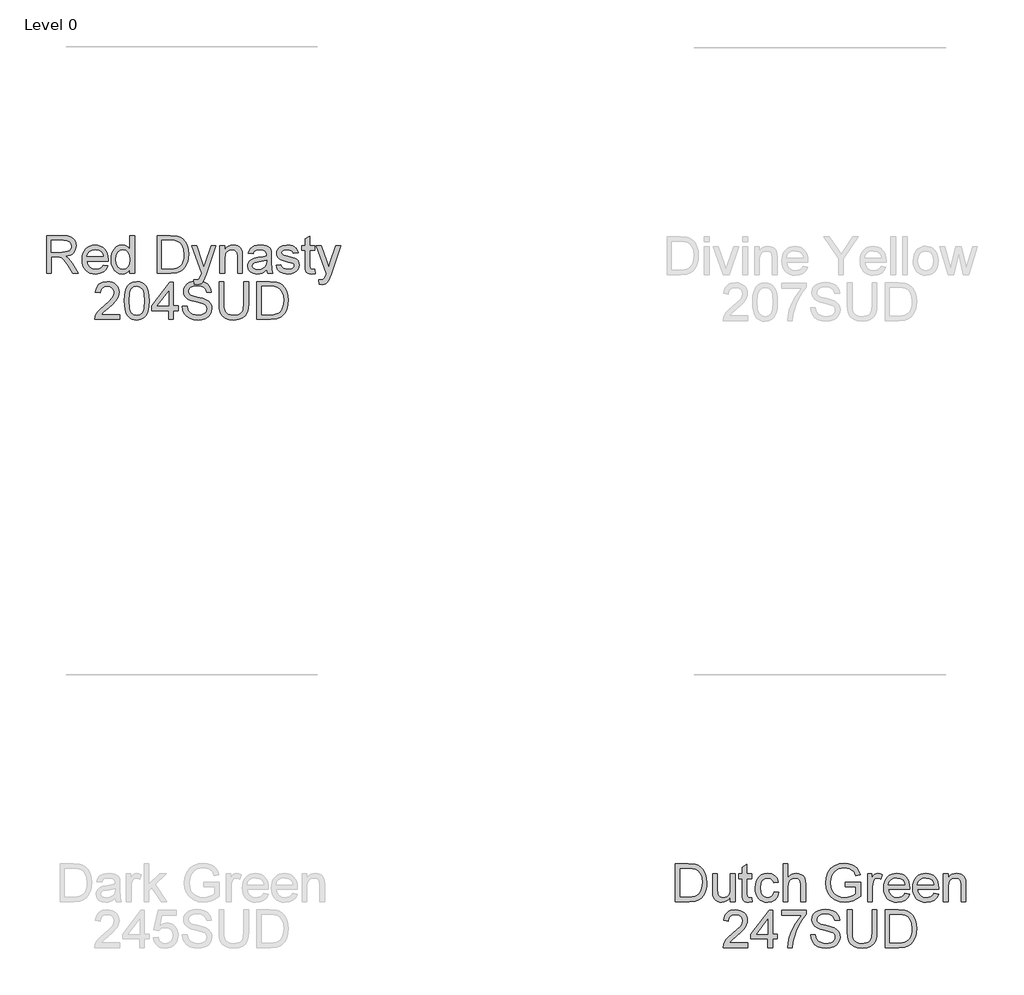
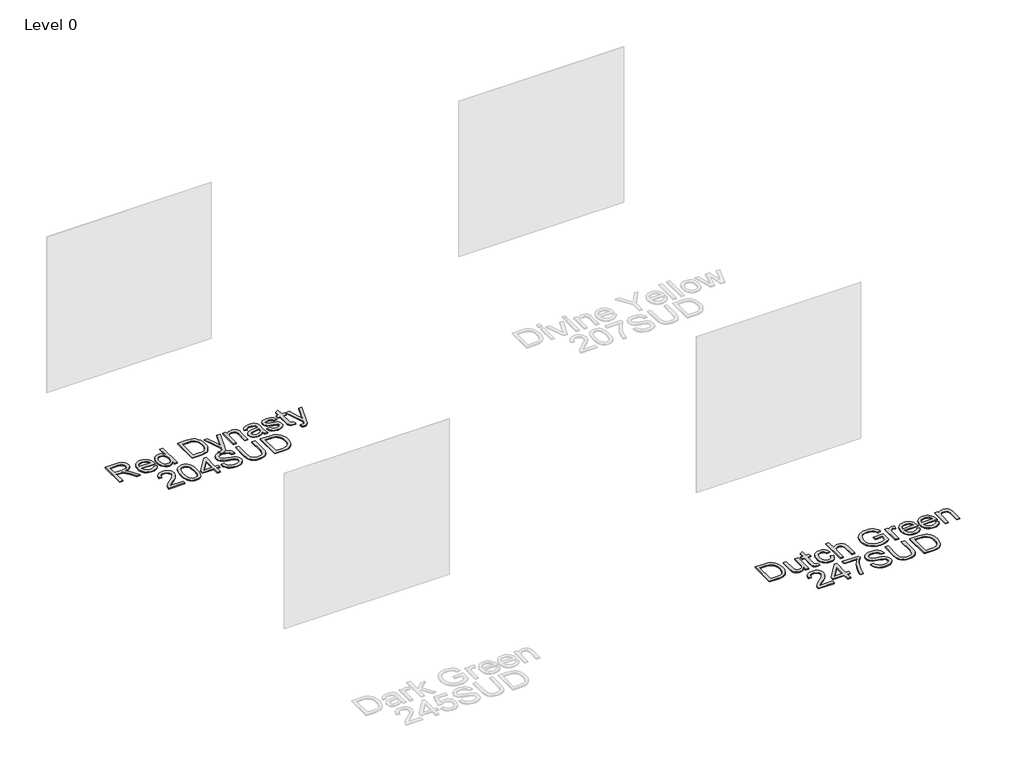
# One storey, part 23 of 37: 2 proxies.
"""IFC4 building model written with IfcOpenShell, lengths in millimetres."""

from ifc_helpers import new_model, si_unit, origin, origin_with_axes, place, context, project, spatial, polyline, outline, extrude, element, save

model = new_model("IFC4")

# Units and contexts
model_context = context("Model", 3, world=origin())
ifc_project = project(units=[si_unit("LENGTHUNIT", "METRE", prefix="MILLI")], contexts=[model_context])

# Site, building, storey
site = spatial("IfcSite", under=ifc_project)
building = spatial("IfcBuilding", under=site)
storey = spatial("IfcBuildingStorey", under=building, Name="Level 0", Elevation=0.0)

# Proxies
placement = place(None, origin())
element("IfcBuildingElementProxy", 1, Name="300mm Arial", ObjectType="300mm Arial", at=placement, inside=storey, context=model_context, shape_type="SweptSolid", body=[
    extrude(outline(polyline([(4393.309562, -16972.860494), (4393.309562, -16671.4915635), (4523.1719063, -16671.4915635), (4558.0747106, -16673.5241116), (4583.4677654, -16679.6217556), (4602.027412, -16690.8789447), (4616.4299921, -16708.3901276), (4625.6730273, -16730.1043624), (4628.754039, -16753.9707069), (4623.6496763, -16783.6587839), (4608.3365882, -16808.2700893), (4596.7368091, -16818.2994722), (4582.3549223, -16826.3147012), (4545.2448261, -16836.3026974), (4566.6555582, -16852.4159288), (4597.1897638, -16891.1906911), (4647.4424443, -16972.860494), (4603.6644869, -16972.860494), (4564.4482662, -16910.3941312), (4536.1213526, -16869.0441949), (4516.2189366, -16849.509661), (4498.3030835, -16842.3359621), (4476.450893, -16841.0115869), (4430.9806784, -16841.0115869), (4430.9806784, -16972.860494), (4393.309562, -16972.860494)]), holes=[polyline([(4430.9806784, -16803.3404706), (4515.2992316, -16803.3404706), (4539.515064, -16802.0068984), (4558.3046369, -16798.0061817), (4572.4496996, -16791.0716061), (4582.7320014, -16780.9364571), (4588.9951923, -16768.6767896), (4591.0829227, -16755.3686584), (4587.1006001, -16736.9929528), (4575.1536323, -16722.1857025), (4554.5982258, -16712.4184355), (4524.7905871, -16709.1626798), (4430.9806784, -16709.1626798), (4430.9806784, -16803.3404706)])]), origin_with_axes(), (0.0, 0.0, 1.0), 10.0),
    extrude(outline(polyline([(4844.9214993, -16906.9360404), (4881.8568516, -16911.64493), (4868.5487205, -16939.4752029), (4847.3127323, -16960.2789297), (4818.6271337, -16973.2467701), (4782.9701713, -16977.5693835), (4759.5958691, -16975.7046817), (4738.7691496, -16970.1105761), (4720.490013, -16960.7870668), (4704.7584592, -16947.7341537), (4692.1079171, -16931.3151204), (4683.0718156, -16911.8932503), (4677.6501546, -16889.4685435), (4675.8429343, -16864.0409998), (4677.6685487, -16837.7512327), (4683.1453919, -16814.5792656), (4692.273464, -16794.5250983), (4705.0527648, -16777.5887309), (4720.7429319, -16764.133447), (4738.6036027, -16754.5225298), (4758.6347774, -16748.7559796), (4780.8364558, -16746.8337961), (4802.3230635, -16748.751381), (4821.7541307, -16754.5041357), (4839.1296572, -16764.0920602), (4854.449643, -16777.5151545), (4866.9553316, -16794.4147337), (4875.8879663, -16814.4321128), (4881.2475471, -16837.5672917), (4883.034074, -16863.8202706), (4882.8133448, -16873.9738137), (4713.5140507, -16873.9738137), (4720.034759, -16902.1719686), (4735.1823002, -16922.902119), (4757.0436877, -16935.6492302), (4783.7059353, -16939.8982672), (4803.7555041, -16937.9300985), (4820.6412876, -16932.0255925), (4834.3632861, -16921.8168672), (4844.9214993, -16906.9360404)]), holes=[polyline([(4713.5140507, -16836.3026974), (4845.3629577, -16836.3026974), (4840.2677921, -16816.4002814), (4830.2797959, -16802.1632482), (4808.3172408, -16788.9194964), (4780.689303, -16784.5049125), (4755.2962483, -16788.0273826), (4734.2993834, -16798.5947929), (4719.7036652, -16815.0667092), (4713.5140507, -16836.3026974)])]), origin_with_axes(), (0.0, 0.0, 1.0), 10.0),
    extrude(outline(polyline([(5057.2629869, -16972.860494), (5057.2629869, -16937.3230932), (5045.9920023, -16954.9308452), (5032.3389818, -16967.507811), (5016.3039253, -16975.0539904), (4997.8868329, -16977.5693835), (4973.5330448, -16973.9273518), (4951.2393959, -16963.0012565), (4932.3670496, -16945.5544529), (4918.2771692, -16922.350296), (4909.5031836, -16894.3268851), (4906.5785217, -16862.422319), (4909.2732573, -16830.9132261), (4917.3574642, -16802.4575538), (4930.8219452, -16778.6739828), (4949.6575034, -16761.181194), (4972.4385959, -16750.4206456), (4997.7396801, -16746.8337961), (5016.1705681, -16749.3997731), (5032.4677405, -16757.0977038), (5046.2817094, -16768.8975188), (5057.2629869, -16783.7691485), (5057.2629869, -16671.4915635), (5094.9341033, -16671.4915635), (5094.9341033, -16972.860494), (5057.2629869, -16972.860494)]), holes=[polyline([(4944.249638, -16862.2751662), (4948.4986751, -16896.350236), (4961.2457862, -16920.5844625), (4979.7686447, -16935.069816), (5001.3449237, -16939.8982672), (5022.9120056, -16935.2905452), (5040.9658146, -16921.4673793), (5053.1886938, -16898.1712519), (5057.2629869, -16865.1446458), (5053.1151174, -16829.037028), (5040.671509, -16804.0026582), (5022.1578476, -16789.3793489), (4999.7998193, -16784.5049125), (4978.0028111, -16789.1862108), (4960.1421402, -16803.230106), (4948.2227636, -16827.3539678), (4944.249638, -16862.2751662)])]), origin_with_axes(), (0.0, 0.0, 1.0), 10.0),
    extrude(outline(polyline([(5273.8719057, -16972.860494), (5273.8719057, -16671.4915635), (5377.8353575, -16671.4915635), (5431.6197052, -16675.8325711), (5455.6423995, -16684.2018865), (5475.9126975, -16697.390456), (5496.7532125, -16720.3462925), (5511.597251, -16748.8939353), (5520.4816012, -16782.4815615), (5523.4430512, -16820.557348), (5521.4380944, -16852.9033724), (5515.4232237, -16881.3682418), (5506.2629621, -16905.6024682), (5494.821832, -16925.2565638), (5481.6516566, -16940.771987), (5467.3042588, -16952.590196), (5450.8323424, -16961.3549846), (5431.2886114, -16967.710146), (5382.8385527, -16972.860494), (5273.8719057, -16972.860494)]), holes=[polyline([(5311.543022, -16935.1893777), (5378.2032395, -16935.1893777), (5405.7759951, -16933.8282143), (5426.6900865, -16929.7447241), (5442.4722241, -16923.1780305), (5454.6491181, -16914.3672567), (5467.7365201, -16898.0608873), (5477.5681664, -16876.9536578), (5483.7209928, -16850.9535978), (5485.7719349, -16819.9687368), (5481.7528241, -16778.9131061), (5469.6954917, -16748.5996297), (5451.8808061, -16727.7775088), (5430.5896356, -16715.1959446), (5408.9213861, -16710.670996), (5377.1731699, -16709.1626798), (5311.543022, -16709.1626798), (5311.543022, -16935.1893777)])]), origin_with_axes(), (0.0, 0.0, 1.0), 10.0),
    extrude(outline(polyline([(5570.5319466, -17057.6205057), (5565.8230571, -17021.3473409), (5584.9529208, -17024.6582789), (5602.8319858, -17020.5012124), (5613.7948692, -17008.9129295), (5624.0955651, -16981.1746271), (5627.0386211, -16972.0511536), (5546.9874989, -16751.5426857), (5586.7187544, -16751.5426857), (5629.1723366, -16874.4152721), (5643.9611929, -16923.5643066), (5658.7500491, -16880.1542312), (5702.3808537, -16751.5426857), (5741.8178036, -16751.5426857), (5664.7833138, -16978.1579947), (5644.7705332, -17027.3070293), (5634.5250197, -17042.9971964), (5622.9183427, -17053.8681093), (5609.4354676, -17060.2140737), (5593.5613595, -17062.3293952), (5570.5319466, -17057.6205057)])), origin_with_axes(), (0.0, 0.0, 1.0), 10.0),
    extrude(outline(polyline([(5773.0141968, -16972.860494), (5773.0141968, -16751.5426857), (5810.6853131, -16751.5426857), (5810.6853131, -16782.4447733), (5823.772715, -16766.8649708), (5839.4904733, -16755.7365404), (5857.8385878, -16749.0594822), (5878.8170586, -16746.8337961), (5897.3859023, -16748.6272209), (5914.3912475, -16754.0074951), (5928.5730984, -16762.303234), (5938.6714592, -16772.8430532), (5949.9654364, -16800.5445674), (5951.9519992, -16836.964885), (5951.9519992, -16972.860494), (5914.2808829, -16972.860494), (5914.2808829, -16842.0416565), (5909.9398754, -16808.7115477), (5903.9342018, -16798.7879309), (5894.5991962, -16791.0900002), (5882.6338343, -16786.1511844), (5868.7370919, -16784.5049125), (5846.6733692, -16788.2021265), (5827.8654022, -16799.2937687), (5820.3491132, -16808.3482643), (5814.9803354, -16820.7228949), (5810.6853131, -16855.4325611), (5810.6853131, -16972.860494), (5773.0141968, -16972.860494)])), origin_with_axes(), (0.0, 0.0, 1.0), 10.0),
    extrude(outline(polyline([(6145.0164703, -16944.6071568), (6127.0178437, -16960.0398064), (6108.4857882, -16970.1381672), (6088.9972395, -16975.7115794), (6068.1291333, -16977.5693835), (6036.6476316, -16973.0996173), (6013.4250806, -16959.6903186), (5999.1052739, -16939.3280501), (5994.3320051, -16913.9993748), (5996.1346268, -16898.3827841), (6001.5424922, -16884.2009331), (6009.8842164, -16872.0608273), (6020.4884149, -16862.5694718), (6046.865554, -16850.2086368), (6079.4598987, -16844.5432541), (6117.9771436, -16838.5835657), (6144.7957411, -16831.5938078), (6145.0164703, -16823.2060983), (6142.4229022, -16806.3938912), (6134.642198, -16795.3942195), (6117.2413796, -16787.2272392), (6092.9979562, -16784.5049125), (6070.5571545, -16786.3167313), (6054.8853815, -16791.7521878), (6044.1984095, -16801.8045633), (6036.7120109, -16817.4671392), (5999.0408946, -16812.7582497), (6005.5799971, -16792.156858), (6015.338067, -16775.9700502), (6029.2256123, -16763.590821), (6048.153141, -16754.4121652), (6071.3021155, -16748.7283884), (6097.8539985, -16746.8337961), (6123.3206296, -16748.5076592), (6143.5081541, -16753.5292485), (6158.7292717, -16761.0800264), (6169.296682, -16770.3414556), (6176.304834, -16781.7917827), (6180.8481766, -16795.9092543), (6182.6875866, -16828.8714811), (6182.6875866, -16875.7396473), (6184.600573, -16941.1858542), (6192.1053657, -16972.860494), (6154.4342494, -16972.860494), (6145.0164703, -16944.6071568)]), holes=[polyline([(6145.0164703, -16869.2649241), (6084.2423647, -16880.8164188), (6051.8319609, -16886.9232599), (6037.1534693, -16896.8560738), (6032.0031214, -16911.3506244), (6034.8082216, -16922.5526311), (6043.2235222, -16931.7312869), (6057.0650823, -16937.8565221), (6076.1489608, -16939.8982672), (6096.3824705, -16937.64499), (6114.2615355, -16930.8851583), (6128.7560861, -16920.9247533), (6138.8360528, -16909.069756), (6143.305819, -16896.8560738), (6144.7957411, -16879.933502), (6145.0164703, -16869.2649241)])]), origin_with_axes(), (0.0, 0.0, 1.0), 10.0),
    extrude(outline(polyline([(6220.3587029, -16906.9360404), (6258.0298192, -16902.2271509), (6263.9711134, -16918.3403823), (6275.4674258, -16930.1861825), (6292.5923326, -16937.470246), (6315.4194104, -16939.8982672), (6337.9705768, -16937.6725811), (6353.8262907, -16930.9955229), (6363.2072816, -16921.3202265), (6366.3342786, -16910.0998256), (6363.1888875, -16900.4981055), (6353.7527143, -16893.1772538), (6314.9779521, -16882.4350996), (6258.2505484, -16864.0042116), (6243.8939535, -16854.7427824), (6233.4920901, -16842.4831149), (6227.1737169, -16828.0069584), (6225.0675924, -16812.0960621), (6226.7598496, -16797.5003439), (6231.8366211, -16784.0266659), (6239.8380545, -16772.2084568), (6250.3042973, -16762.5791455), (6274.2534152, -16751.4323211), (6306.663819, -16746.8337961), (6331.1831539, -16748.6824032), (6352.5019156, -16754.2282242), (6369.6452165, -16762.9286334), (6381.6381696, -16774.2410048), (6389.5844207, -16789.0022698), (6394.5876158, -16808.0493601), (6356.9164995, -16812.7582497), (6352.1616247, -16800.9032524), (6342.7530427, -16791.972917), (6328.5987829, -16786.3719136), (6309.6068749, -16784.5049125), (6287.9754136, -16786.2891401), (6273.5544394, -16791.6418232), (6265.4426414, -16799.3673451), (6262.7387087, -16808.2700893), (6267.2268691, -16819.2329728), (6281.2799613, -16827.5471059), (6313.7271533, -16835.5669334), (6369.0198171, -16853.2988455), (6383.6247324, -16861.7785255), (6394.6979804, -16873.3852025), (6401.6785413, -16888.1556646), (6404.0053949, -16906.1267001), (6401.2738711, -16924.7047408), (6393.0792996, -16942.1791356), (6379.7343803, -16957.1795239), (6361.5518126, -16968.3355454), (6339.5892575, -16975.260924), (6314.9043757, -16977.5693835), (6276.9205597, -16973.1180114), (6249.2006513, -16959.763895), (6230.696187, -16937.654187), (6220.3587029, -16906.9360404)])), origin_with_axes(), (0.0, 0.0, 1.0), 10.0),
    extrude(outline(polyline([(6526.4365229, -16941.4433716), (6531.1454124, -16973.96414), (6502.9656516, -16977.5693835), (6484.8842515, -16976.005885), (6471.4013764, -16971.3153896), (6461.8732327, -16964.0865084), (6455.656027, -16954.9078526), (6452.2347245, -16939.1441091), (6451.0942903, -16912.1599648), (6451.0942903, -16789.213802), (6422.840953, -16789.213802), (6422.840953, -16751.5426857), (6451.0942903, -16751.5426857), (6451.0942903, -16697.758338), (6488.7654066, -16675.6118419), (6488.7654066, -16751.5426857), (6526.4365229, -16751.5426857), (6526.4365229, -16789.213802), (6488.7654066, -16789.213802), (6488.7654066, -16911.0563188), (6490.7519694, -16930.4804881), (6497.1899043, -16937.3598814), (6510.0289859, -16939.8982672), (6526.4365229, -16941.4433716)])), origin_with_axes(), (0.0, 0.0, 1.0), 10.0),
    extrude(outline(polyline([(6564.1076392, -17057.6205057), (6559.3987497, -17021.3473409), (6578.5286134, -17024.6582789), (6596.4076784, -17020.5012124), (6607.3705618, -17008.9129295), (6617.6712577, -16981.1746271), (6620.6143136, -16972.0511536), (6540.5631915, -16751.5426857), (6580.294447, -16751.5426857), (6622.7480292, -16874.4152721), (6637.5368854, -16923.5643066), (6652.3257416, -16880.1542312), (6695.9565463, -16751.5426857), (6735.3934961, -16751.5426857), (6658.3590064, -16978.1579947), (6638.3462258, -17027.3070293), (6628.1007122, -17042.9971964), (6616.4940353, -17053.8681093), (6603.0111602, -17060.2140737), (6587.1370521, -17062.3293952), (6564.1076392, -17057.6205057)])), origin_with_axes(), (0.0, 0.0, 1.0), 10.0),
    extrude(outline(polyline([(4974.85742, -17301.1138312), (4974.85742, -17338.7849475), (4777.0840594, -17338.7849475), (4781.1307614, -17312.8124787), (4790.4197817, -17292.5145896), (4804.0130215, -17272.8237058), (4823.6763141, -17252.213117), (4851.1754932, -17229.156113), (4891.8264537, -17193.0484951), (4916.21703, -17166.3954446), (4928.4123181, -17144.7639833), (4932.4774142, -17123.7211331), (4928.6422444, -17104.8579838), (4917.136735, -17089.1770138), (4899.4508081, -17078.6096035), (4877.0743857, -17075.0871334), (4853.5759233, -17078.52683), (4835.3197793, -17088.84592), (4823.5383584, -17105.2350629), (4819.4640653, -17126.8849183), (4781.792949, -17122.1760288), (4790.9256195, -17085.7373171), (4799.4719781, -17071.2013798), (4810.6716856, -17059.1210548), (4824.2672246, -17049.6251008), (4840.0010776, -17042.8422765), (4877.8837261, -17037.4160171), (4898.0735498, -17038.9243332), (4916.042286, -17043.4492818), (4931.7899347, -17050.9908627), (4945.3164958, -17061.549076), (4956.180511, -17074.3421723), (4963.9405218, -17088.5884026), (4968.5965283, -17104.2877667), (4970.1485305, -17121.4402648), (4968.4746674, -17139.4572855), (4963.4530782, -17157.1616065), (4954.5411368, -17175.1694302), (4941.1962175, -17194.0969588), (4919.9234411, -17216.6941104), (4887.2279288, -17245.7108027), (4843.8914297, -17281.9471793), (4826.8952816, -17301.1138312), (4974.85742, -17301.1138312)])), origin_with_axes(), (0.0, 0.0, 1.0), 10.0),
    extrude(outline(polyline([(5012.5285363, -17190.5285035), (5015.2968483, -17142.2899768), (5023.6017844, -17103.8187172), (5037.360571, -17074.5261133), (5056.4904348, -17053.8235541), (5081.1293314, -17041.5179013), (5111.4152166, -17037.4160171), (5134.6285705, -17039.8440382), (5155.4139033, -17047.1281017), (5172.7963275, -17058.983099), (5185.8009561, -17075.1239216), (5195.6234053, -17095.4126136), (5203.4592918, -17119.7112194), (5208.5912457, -17150.5673217), (5210.3018969, -17190.5285035), (5207.5611761, -17238.4911186), (5199.3390135, -17276.8704077), (5185.6630003, -17306.1906027), (5166.5607277, -17326.9759355), (5141.8666488, -17339.3643617), (5111.4152166, -17343.4938371), (5090.6666721, -17341.7004123), (5072.2725723, -17336.3201381), (5056.2329174, -17327.3530145), (5042.5477071, -17314.7990414), (5029.4143199, -17292.1053209), (5020.033329, -17263.828991), (5014.4047345, -17229.9700519), (5012.5285363, -17190.5285035)]), holes=[polyline([(5050.1996526, -17190.4549271), (5054.6142366, -17249.7115194), (5060.1324665, -17269.9795181), (5067.8579884, -17284.0073184), (5087.5764633, -17300.3688702), (5111.4152166, -17305.8227207), (5135.2539699, -17300.3504761), (5154.9724449, -17283.933742), (5162.6979668, -17269.8829491), (5168.2161967, -17249.6195489), (5172.6307806, -17190.4549271), (5168.3633495, -17132.5319069), (5163.0290606, -17112.3305869), (5155.5610561, -17097.9693935), (5135.8793693, -17080.8076984), (5110.9737582, -17075.0871334), (5087.3925223, -17080.1271167), (5068.4465996, -17095.2470667), (5060.4635603, -17110.8820515), (5054.7613894, -17131.9616898), (5050.1996526, -17190.4549271)])]), origin_with_axes(), (0.0, 0.0, 1.0), 10.0),
    extrude(outline(polyline([(5365.6952517, -17338.7849475), (5365.6952517, -17268.1516044), (5229.1374551, -17268.1516044), (5229.1374551, -17230.4804881), (5375.1130308, -17042.1249066), (5403.366368, -17042.1249066), (5403.366368, -17230.4804881), (5441.0374843, -17230.4804881), (5441.0374843, -17268.1516044), (5403.366368, -17268.1516044), (5403.366368, -17338.7849475), (5365.6952517, -17338.7849475)]), holes=[polyline([(5365.6952517, -17230.4804881), (5365.6952517, -17114.0826249), (5275.4905865, -17230.4804881), (5365.6952517, -17230.4804881)])]), origin_with_axes(), (0.0, 0.0, 1.0), 10.0),
    extrude(outline(polyline([(5473.9997111, -17235.1893777), (5511.6708274, -17235.1893777), (5515.9934408, -17256.0942721), (5523.8109332, -17272.8972822), (5536.0062214, -17286.2330045), (5553.462222, -17296.7360355), (5574.7993778, -17303.5510494), (5598.638131, -17305.8227207), (5619.6257989, -17304.1028724), (5638.0015045, -17298.9433274), (5652.8915283, -17290.7763471), (5663.4221504, -17280.0341929), (5669.6853414, -17267.700949), (5671.7730717, -17254.7606998), (5670.2095732, -17242.1515444), (5665.5190778, -17231.2530403), (5655.9909341, -17221.9548229), (5639.9144909, -17214.1465276), (5585.0632854, -17199.7623415), (5549.0568351, -17190.2433949), (5526.0182252, -17181.1843008), (5507.2654405, -17168.510766), (5493.9757034, -17153.1516928), (5486.0570435, -17135.4381747), (5483.4174902, -17115.7013056), (5486.6824429, -17093.637583), (5496.477301, -17073.0637824), (5512.5445471, -17055.6261758), (5534.6266639, -17042.9710352), (5561.1325616, -17035.2731044), (5590.4711508, -17032.7071275), (5622.2561551, -17035.3926661), (5650.068034, -17043.4492818), (5672.9135059, -17056.7114277), (5689.7992895, -17075.013557), (5700.4862614, -17097.2152354), (5704.7352985, -17122.1760288), (5667.0641821, -17122.1760288), (5660.1480006, -17099.6984389), (5645.7270264, -17083.4748429), (5623.1942542, -17073.6523936), (5591.9426787, -17070.3782438), (5559.9553393, -17073.6156054), (5538.0111782, -17083.3276901), (5525.3192494, -17097.6199056), (5521.0886065, -17114.5976597), (5524.0868447, -17129.0738162), (5533.0815595, -17140.7172813), (5554.3451388, -17151.1283418), (5594.5914291, -17161.7601314), (5636.1253064, -17171.8584922), (5661.2516466, -17180.669266), (5682.7267581, -17194.3360821), (5697.7087523, -17211.2034716), (5706.5103291, -17231.0874934), (5709.444188, -17253.8042066), (5706.0688707, -17277.0267576), (5695.9429188, -17298.869751), (5679.4801995, -17317.668521), (5657.0945801, -17331.7584014), (5630.1748151, -17340.5599781), (5600.109659, -17343.4938371), (5563.2018979, -17340.3300519), (5532.8240421, -17330.8386964), (5508.6266039, -17314.9829824), (5490.2600953, -17292.7261217), (5478.4694773, -17265.6132187), (5473.9997111, -17235.1893777)])), origin_with_axes(), (0.0, 0.0, 1.0), 10.0),
    extrude(outline(polyline([(5963.7242231, -17037.4160171), (6001.3953394, -17037.4160171), (6001.3953394, -17211.277048), (5998.8385595, -17251.9923878), (5991.1682199, -17283.3451308), (5976.8392162, -17307.533372), (5954.306444, -17326.7552063), (5923.514721, -17339.3091794), (5884.4088649, -17343.4938371), (5846.1583345, -17339.8518053), (5815.5781436, -17328.92571), (5792.6590953, -17311.0926303), (5777.3919925, -17286.7296452), (5768.811145, -17254.052527), (5765.9508625, -17211.277048), (5765.9508625, -17037.4160171), (5803.6219788, -17037.4160171), (5803.6219788, -17209.9526728), (5805.4797828, -17243.8070134), (5811.0531951, -17267.3790523), (5821.1515558, -17283.7038158), (5836.5842055, -17295.8163305), (5856.7073507, -17303.3211232), (5880.8771977, -17305.8227207), (5919.1921075, -17300.8747079), (5933.5349068, -17294.6896919), (5944.6679357, -17286.0306694), (5953.0050614, -17273.8537754), (5958.9601512, -17257.1151446), (5963.7242231, -17209.9526728), (5963.7242231, -17037.4160171)])), origin_with_axes(), (0.0, 0.0, 1.0), 10.0),
    extrude(outline(polyline([(6067.3197929, -17338.7849475), (6067.3197929, -17037.4160171), (6171.2832447, -17037.4160171), (6225.0675924, -17041.7570246), (6249.0902867, -17050.12634), (6269.3605847, -17063.3149095), (6290.2010997, -17086.270746), (6305.0451382, -17114.8183889), (6313.9294884, -17148.406015), (6316.8909384, -17186.4818015), (6314.8859816, -17218.8278259), (6308.8711109, -17247.2926953), (6299.7108493, -17271.5269217), (6288.2697192, -17291.1810173), (6275.0995438, -17306.6964405), (6260.752146, -17318.5146496), (6244.2802296, -17327.2794381), (6224.7364986, -17333.6345996), (6176.2864399, -17338.7849475), (6067.3197929, -17338.7849475)]), holes=[polyline([(6104.9909092, -17301.1138312), (6171.6511267, -17301.1138312), (6199.2238823, -17299.7526678), (6220.1379737, -17295.6691777), (6235.9201113, -17289.1024841), (6248.0970053, -17280.2917103), (6261.1844073, -17263.9853408), (6271.0160536, -17242.8781114), (6277.16888, -17216.8780514), (6279.2198221, -17185.8931903), (6275.2007113, -17144.8375597), (6263.1433789, -17114.5240833), (6245.3286933, -17093.7019623), (6224.0375228, -17081.1203981), (6202.3692733, -17076.5954496), (6170.6210571, -17075.0871334), (6104.9909092, -17075.0871334), (6104.9909092, -17301.1138312)])]), origin_with_axes(), (0.0, 0.0, 1.0), 10.0),
])
element("IfcBuildingElementProxy", 2, Name="300mm Arial", ObjectType="300mm Arial", at=placement, inside=storey, context=model_context, shape_type="SweptSolid", body=[
    extrude(outline(polyline([(9398.0184516, -21972.860494), (9398.0184516, -21671.4915635), (9501.9819034, -21671.4915635), (9555.7662511, -21675.8325711), (9579.7889454, -21684.2018865), (9600.0592433, -21697.390456), (9620.8997584, -21720.3462925), (9635.7437969, -21748.8939353), (9644.6281471, -21782.4815615), (9647.5895971, -21820.557348), (9645.5846402, -21852.9033724), (9639.5697696, -21881.3682418), (9630.4095079, -21905.6024682), (9618.9683779, -21925.2565638), (9605.7982025, -21940.771987), (9591.4508047, -21952.590196), (9574.9788883, -21961.3549846), (9555.4351573, -21967.710146), (9506.9850986, -21972.860494), (9398.0184516, -21972.860494)]), holes=[polyline([(9435.6895679, -21935.1893777), (9502.3497854, -21935.1893777), (9529.922541, -21933.8282143), (9550.8366324, -21929.7447241), (9566.61877, -21923.1780305), (9578.795664, -21914.3672567), (9591.883066, -21898.0608873), (9601.7147123, -21876.9536578), (9607.8675387, -21850.9535978), (9609.9184808, -21819.9687368), (9605.89937, -21778.9131061), (9593.8420376, -21748.5996297), (9576.027352, -21727.7775088), (9554.7361815, -21715.1959446), (9533.067932, -21710.670996), (9501.3197158, -21709.1626798), (9435.6895679, -21709.1626798), (9435.6895679, -21935.1893777)])]), origin_with_axes(), (0.0, 0.0, 1.0), 10.0),
    extrude(outline(polyline([(9835.9451786, -21972.860494), (9835.9451786, -21934.8214957), (9822.3151507, -21953.5236966), (9806.4410426, -21966.8824116), (9788.3228544, -21974.8976405), (9767.9605859, -21977.5693835), (9749.6124714, -21975.6931853), (9732.5335498, -21970.0645908), (9718.2045461, -21961.6033049), (9708.1061853, -21951.2290327), (9696.8857845, -21923.4907302), (9694.6784925, -21888.4683643), (9694.6784925, -21751.5426857), (9732.3496088, -21751.5426857), (9732.3496088, -21870.7364521), (9734.6304772, -21909.1433324), (9740.121116, -21921.9548229), (9749.529698, -21931.6944987), (9762.2308239, -21937.8473251), (9777.5990942, -21939.8982672), (9793.8502813, -21937.8013398), (9809.0530048, -21931.5105577), (9821.5885838, -21921.605335), (9829.8383375, -21908.6650858), (9834.4184684, -21890.9423707), (9835.9451786, -21866.6897502), (9835.9451786, -21751.5426857), (9873.616295, -21751.5426857), (9873.616295, -21972.860494), (9835.9451786, -21972.860494)])), origin_with_axes(), (0.0, 0.0, 1.0), 10.0),
    extrude(outline(polyline([(10005.465202, -21941.4433716), (10010.1740916, -21973.96414), (9981.9943307, -21977.5693835), (9963.9129307, -21976.005885), (9950.4300555, -21971.3153896), (9940.9019119, -21964.0865084), (9934.6847062, -21954.9078526), (9931.2634036, -21939.1441091), (9930.1229694, -21912.1599648), (9930.1229694, -21789.213802), (9901.8696322, -21789.213802), (9901.8696322, -21751.5426857), (9930.1229694, -21751.5426857), (9930.1229694, -21697.758338), (9967.7940857, -21675.6118419), (9967.7940857, -21751.5426857), (10005.465202, -21751.5426857), (10005.465202, -21789.213802), (9967.7940857, -21789.213802), (9967.7940857, -21911.0563188), (9969.7806485, -21930.4804881), (9976.2185834, -21937.3598814), (9989.057665, -21939.8982672), (10005.465202, -21941.4433716)])), origin_with_axes(), (0.0, 0.0, 1.0), 10.0),
    extrude(outline(polyline([(10184.4030045, -21892.8093718), (10222.0741208, -21897.5182614), (10211.5710898, -21931.0231141), (10191.8342208, -21956.3425924), (10164.7213177, -21972.2626857), (10132.0901848, -21977.5693835), (10110.9622619, -21975.7184772), (10092.0186384, -21970.1657584), (10075.2593143, -21960.9112269), (10060.6842895, -21947.9548829), (10048.8867738, -21931.5404481), (10040.4599768, -21911.9116444), (10035.4038986, -21889.0684718), (10033.7185393, -21863.0109302), (10036.5972159, -21829.4876834), (10045.2332457, -21800.4342028), (10059.7645845, -21776.9725286), (10080.329188, -21760.2247008), (10104.9312965, -21750.1815223), (10131.57515, -21746.8337961), (10163.4061396, -21751.4323211), (10188.8543766, -21765.2278959), (10207.1105206, -21787.4847566), (10217.3652312, -21817.4671392), (10179.6941149, -21822.1760288), (10172.8607069, -21805.7409006), (10162.2197202, -21793.9594797), (10148.359766, -21786.8685543), (10131.8694556, -21784.5049125), (10107.5248645, -21789.1586197), (10088.2018627, -21803.1197414), (10075.5927074, -21827.1424357), (10071.3896556, -21861.9808606), (10075.5007369, -21897.2883351), (10087.8339807, -21921.3938029), (10106.8074946, -21935.2721511), (10130.839386, -21939.8982672), (10150.3463288, -21937.0103936), (10166.3399985, -21928.3467726), (10177.9742666, -21913.6866751), (10184.4030045, -21892.8093718)])), origin_with_axes(), (0.0, 0.0, 1.0), 10.0),
    extrude(outline(polyline([(10255.0363476, -21972.860494), (10255.0363476, -21671.4915635), (10292.7074639, -21671.4915635), (10292.7074639, -21782.2976205), (10306.5444254, -21766.7821973), (10322.0828412, -21755.6997522), (10339.3227112, -21749.0502852), (10358.2640354, -21746.8337961), (10381.0175368, -21749.2526203), (10400.5704648, -21756.5090926), (10415.9663263, -21768.0329961), (10426.2486281, -21783.2541137), (10432.0427695, -21804.1682051), (10433.97415, -21832.7710302), (10433.97415, -21972.860494), (10396.3030337, -21972.860494), (10396.3030337, -21836.6705794), (10393.3047954, -21813.0893435), (10384.3100807, -21796.9393239), (10369.81553, -21787.6135153), (10350.3177843, -21784.5049125), (10334.397691, -21786.6018398), (10319.4524849, -21792.8926219), (10307.0732558, -21802.7702535), (10298.8510932, -21815.6277292), (10294.2433712, -21832.7158479), (10292.7074639, -21855.2854083), (10292.7074639, -21972.860494), (10255.0363476, -21972.860494)])), origin_with_axes(), (0.0, 0.0, 1.0), 10.0),
    extrude(outline(polyline([(10749.4697491, -21855.1382555), (10749.4697491, -21817.4671392), (10871.9008771, -21817.4671392), (10871.9008771, -21930.1126061), (10842.1484207, -21950.8059684), (10811.4578653, -21965.6500069), (10779.9027871, -21974.5895394), (10747.5567627, -21977.5693835), (10705.2963185, -21972.8329028), (10667.1009703, -21958.6234608), (10635.3711483, -21935.437698), (10612.5072823, -21903.7722553), (10598.6841163, -21865.7884393), (10594.0763943, -21823.6475567), (10598.6657222, -21781.2031715), (10612.4337059, -21741.7202364), (10634.8101282, -21708.6016598), (10665.2247722, -21685.2503502), (10702.2704891, -21671.399593), (10744.5401303, -21666.782674), (10775.5709766, -21669.4590155), (10803.474826, -21677.4880401), (10826.9732884, -21690.2903335), (10844.787974, -21707.2864817), (10857.9673465, -21729.295022), (10867.5598695, -21757.134492), (10832.8318092, -21766.9201531), (10825.0786961, -21747.0637224), (10815.65172, -21732.0817281), (10803.1805204, -21720.7877509), (10786.2947368, -21711.9953712), (10766.1623946, -21706.3391855), (10743.9515191, -21704.4537903), (10717.9514591, -21706.4863383), (10695.7221896, -21712.5839824), (10677.3464839, -21721.9833674), (10662.9071156, -21733.9211381), (10643.5197345, -21762.9470275), (10634.6905666, -21791.3843058), (10631.7475106, -21822.1024524), (10635.2883748, -21858.1272967), (10645.9109674, -21887.7693885), (10663.2933917, -21910.8171955), (10687.1137509, -21927.0591856), (10714.9900091, -21936.6884968), (10744.5401303, -21939.8982672), (10770.6321608, -21937.4794431), (10796.0803979, -21930.2229707), (10818.1809087, -21920.2257775), (10834.2297608, -21909.5847908), (10834.2297608, -21855.1382555), (10749.4697491, -21855.1382555)])), origin_with_axes(), (0.0, 0.0, 1.0), 10.0),
    extrude(outline(polyline([(10928.4075515, -21972.860494), (10928.4075515, -21751.5426857), (10961.3697783, -21751.5426857), (10961.3697783, -21784.2841833), (10973.5466723, -21765.3014723), (10984.7670732, -21754.1178596), (10996.0242622, -21748.654812), (11008.3115209, -21746.8337961), (11027.0735026, -21749.7400639), (11046.12979, -21758.4588672), (11033.5482257, -21792.2304343), (11020.3044739, -21786.4362929), (11007.0607221, -21784.5049125), (10995.8127301, -21786.3627165), (10985.7603546, -21791.9361288), (10977.6393595, -21800.8020848), (10972.1855089, -21812.5375205), (10967.6053781, -21833.5803706), (10966.0786678, -21856.5362071), (10966.0786678, -21972.860494), (10928.4075515, -21972.860494)])), origin_with_axes(), (0.0, 0.0, 1.0), 10.0),
    extrude(outline(polyline([(11224.626134, -21906.9360404), (11261.5614864, -21911.64493), (11248.2533552, -21939.4752029), (11227.017367, -21960.2789297), (11198.3317684, -21973.2467701), (11162.6748061, -21977.5693835), (11139.3005038, -21975.7046817), (11118.4737843, -21970.1105761), (11100.1946477, -21960.7870668), (11084.4630939, -21947.7341537), (11071.8125518, -21931.3151204), (11062.7764503, -21911.8932503), (11057.3547894, -21889.4685435), (11055.5475691, -21864.0409998), (11057.3731835, -21837.7512327), (11062.8500267, -21814.5792656), (11071.9780987, -21794.5250983), (11084.7573995, -21777.5887309), (11100.4475666, -21764.133447), (11118.3082374, -21754.5225298), (11138.3394121, -21748.7559796), (11160.5410905, -21746.8337961), (11182.0276983, -21748.751381), (11201.4587654, -21754.5041357), (11218.8342919, -21764.0920602), (11234.1542777, -21777.5151545), (11246.6599663, -21794.4147337), (11255.592601, -21814.4321128), (11260.9521818, -21837.5672917), (11262.7387087, -21863.8202706), (11262.5179795, -21873.9738137), (11093.2186854, -21873.9738137), (11099.7393937, -21902.1719686), (11114.8869349, -21922.902119), (11136.7483224, -21935.6492302), (11163.41057, -21939.8982672), (11183.4601388, -21937.9300985), (11200.3459224, -21932.0255925), (11214.0679208, -21921.8168672), (11224.626134, -21906.9360404)]), holes=[polyline([(11093.2186854, -21836.3026974), (11225.0675924, -21836.3026974), (11219.9724268, -21816.4002814), (11209.9844306, -21802.1632482), (11188.0218755, -21788.9194964), (11160.3939377, -21784.5049125), (11135.000883, -21788.0273826), (11114.0040181, -21798.5947929), (11099.4082999, -21815.0667092), (11093.2186854, -21836.3026974)])]), origin_with_axes(), (0.0, 0.0, 1.0), 10.0),
    extrude(outline(polyline([(11455.3617214, -21906.9360404), (11492.2970737, -21911.64493), (11478.9889426, -21939.4752029), (11457.7529544, -21960.2789297), (11429.0673558, -21973.2467701), (11393.4103934, -21977.5693835), (11370.0360912, -21975.7046817), (11349.2093717, -21970.1105761), (11330.9302351, -21960.7870668), (11315.1986813, -21947.7341537), (11302.5481391, -21931.3151204), (11293.5120376, -21911.8932503), (11288.0903767, -21889.4685435), (11286.2831564, -21864.0409998), (11288.1087708, -21837.7512327), (11293.585614, -21814.5792656), (11302.713686, -21794.5250983), (11315.4929868, -21777.5887309), (11331.1831539, -21764.133447), (11349.0438248, -21754.5225298), (11369.0749994, -21748.7559796), (11391.2766779, -21746.8337961), (11412.7632856, -21748.751381), (11432.1943528, -21754.5041357), (11449.5698793, -21764.0920602), (11464.8898651, -21777.5151545), (11477.3955537, -21794.4147337), (11486.3281884, -21814.4321128), (11491.6877692, -21837.5672917), (11493.4742961, -21863.8202706), (11493.2535669, -21873.9738137), (11323.9542727, -21873.9738137), (11330.4749811, -21902.1719686), (11345.6225223, -21922.902119), (11367.4839098, -21935.6492302), (11394.1461574, -21939.8982672), (11414.1957262, -21937.9300985), (11431.0815097, -21932.0255925), (11444.8035082, -21921.8168672), (11455.3617214, -21906.9360404)]), holes=[polyline([(11323.9542727, -21836.3026974), (11455.8031798, -21836.3026974), (11450.7080142, -21816.4002814), (11440.720018, -21802.1632482), (11418.7574629, -21788.9194964), (11391.1295251, -21784.5049125), (11365.7364703, -21788.0273826), (11344.7396055, -21798.5947929), (11330.1438873, -21815.0667092), (11323.9542727, -21836.3026974)])]), origin_with_axes(), (0.0, 0.0, 1.0), 10.0),
    extrude(outline(polyline([(11531.1454124, -21972.860494), (11531.1454124, -21751.5426857), (11568.8165287, -21751.5426857), (11568.8165287, -21782.4447733), (11581.9039307, -21766.8649708), (11597.6216889, -21755.7365404), (11615.9698035, -21749.0594822), (11636.9482742, -21746.8337961), (11655.5171179, -21748.6272209), (11672.5224632, -21754.0074951), (11686.7043141, -21762.303234), (11696.8026748, -21772.8430532), (11708.0966521, -21800.5445674), (11710.0832149, -21836.964885), (11710.0832149, -21972.860494), (11672.4120986, -21972.860494), (11672.4120986, -21842.0416565), (11668.071091, -21808.7115477), (11662.0654175, -21798.7879309), (11652.7304118, -21791.0900002), (11640.7650499, -21786.1511844), (11626.8683076, -21784.5049125), (11604.8045849, -21788.2021265), (11585.9966179, -21799.2937687), (11578.4803289, -21808.3482643), (11573.111551, -21820.7228949), (11568.8165287, -21855.4325611), (11568.8165287, -21972.860494), (11531.1454124, -21972.860494)])), origin_with_axes(), (0.0, 0.0, 1.0), 10.0),
    extrude(outline(polyline([(9974.85742, -22301.1138312), (9974.85742, -22338.7849475), (9777.0840594, -22338.7849475), (9781.1307614, -22312.8124787), (9790.4197817, -22292.5145896), (9804.0130215, -22272.8237058), (9823.6763141, -22252.213117), (9851.1754932, -22229.156113), (9891.8264537, -22193.0484951), (9916.21703, -22166.3954446), (9928.4123181, -22144.7639833), (9932.4774142, -22123.7211331), (9928.6422444, -22104.8579838), (9917.136735, -22089.1770138), (9899.4508081, -22078.6096035), (9877.0743857, -22075.0871334), (9853.5759233, -22078.52683), (9835.3197793, -22088.84592), (9823.5383584, -22105.2350629), (9819.4640653, -22126.8849183), (9781.792949, -22122.1760288), (9790.9256195, -22085.7373171), (9799.4719781, -22071.2013798), (9810.6716856, -22059.1210548), (9824.2672246, -22049.6251008), (9840.0010776, -22042.8422765), (9877.8837261, -22037.4160171), (9898.0735498, -22038.9243332), (9916.042286, -22043.4492818), (9931.7899347, -22050.9908627), (9945.3164958, -22061.549076), (9956.180511, -22074.3421723), (9963.9405218, -22088.5884026), (9968.5965283, -22104.2877667), (9970.1485305, -22121.4402648), (9968.4746674, -22139.4572855), (9963.4530782, -22157.1616065), (9954.5411368, -22175.1694302), (9941.1962175, -22194.0969588), (9919.9234411, -22216.6941104), (9887.2279288, -22245.7108027), (9843.8914297, -22281.9471793), (9826.8952816, -22301.1138312), (9974.85742, -22301.1138312)])), origin_with_axes(), (0.0, 0.0, 1.0), 10.0),
    extrude(outline(polyline([(10134.9596643, -22338.7849475), (10134.9596643, -22268.1516044), (9998.4018677, -22268.1516044), (9998.4018677, -22230.4804881), (10144.3774434, -22042.1249066), (10172.6307806, -22042.1249066), (10172.6307806, -22230.4804881), (10210.3018969, -22230.4804881), (10210.3018969, -22268.1516044), (10172.6307806, -22268.1516044), (10172.6307806, -22338.7849475), (10134.9596643, -22338.7849475)]), holes=[polyline([(10134.9596643, -22230.4804881), (10134.9596643, -22114.0826249), (10044.7549991, -22230.4804881), (10134.9596643, -22230.4804881)])]), origin_with_axes(), (0.0, 0.0, 1.0), 10.0),
    extrude(outline(polyline([(10243.2641237, -22079.7960229), (10243.2641237, -22042.1249066), (10441.0374843, -22042.1249066), (10441.0374843, -22072.5855358), (10412.8485264, -22108.2608923), (10384.93548, -22153.6299393), (10360.3149775, -22204.5540045), (10342.0036512, -22256.8944154), (10333.0273305, -22296.0554538), (10328.0241354, -22338.7849475), (10290.3530191, -22338.7849475), (10294.4273122, -22299.9550029), (10305.3258163, -22253.8042066), (10322.7542258, -22204.8850983), (10346.4182352, -22157.7502177), (10374.046173, -22115.1402856), (10403.366368, -22079.7960229), (10243.2641237, -22079.7960229)])), origin_with_axes(), (0.0, 0.0, 1.0), 10.0),
    extrude(outline(polyline([(10473.9997111, -22235.1893777), (10511.6708274, -22235.1893777), (10515.9934408, -22256.0942721), (10523.8109332, -22272.8972822), (10536.0062214, -22286.2330045), (10553.462222, -22296.7360355), (10574.7993778, -22303.5510494), (10598.638131, -22305.8227207), (10619.6257989, -22304.1028724), (10638.0015045, -22298.9433274), (10652.8915283, -22290.7763471), (10663.4221504, -22280.0341929), (10669.6853414, -22267.700949), (10671.7730717, -22254.7606998), (10670.2095732, -22242.1515444), (10665.5190778, -22231.2530403), (10655.9909341, -22221.9548229), (10639.9144909, -22214.1465276), (10585.0632854, -22199.7623415), (10549.0568351, -22190.2433949), (10526.0182252, -22181.1843008), (10507.2654405, -22168.510766), (10493.9757034, -22153.1516928), (10486.0570435, -22135.4381747), (10483.4174902, -22115.7013056), (10486.6824429, -22093.637583), (10496.477301, -22073.0637824), (10512.5445471, -22055.6261758), (10534.6266639, -22042.9710352), (10561.1325616, -22035.2731044), (10590.4711508, -22032.7071275), (10622.2561551, -22035.3926661), (10650.068034, -22043.4492818), (10672.9135059, -22056.7114277), (10689.7992895, -22075.013557), (10700.4862614, -22097.2152354), (10704.7352985, -22122.1760288), (10667.0641821, -22122.1760288), (10660.1480006, -22099.6984389), (10645.7270264, -22083.4748429), (10623.1942542, -22073.6523936), (10591.9426787, -22070.3782438), (10559.9553393, -22073.6156054), (10538.0111782, -22083.3276901), (10525.3192494, -22097.6199056), (10521.0886065, -22114.5976597), (10524.0868447, -22129.0738162), (10533.0815595, -22140.7172813), (10554.3451388, -22151.1283418), (10594.5914291, -22161.7601314), (10636.1253064, -22171.8584922), (10661.2516466, -22180.669266), (10682.7267581, -22194.3360821), (10697.7087523, -22211.2034716), (10706.5103291, -22231.0874934), (10709.444188, -22253.8042066), (10706.0688707, -22277.0267576), (10695.9429188, -22298.869751), (10679.4801995, -22317.668521), (10657.0945801, -22331.7584014), (10630.1748151, -22340.5599781), (10600.109659, -22343.4938371), (10563.2018979, -22340.3300519), (10532.8240421, -22330.8386964), (10508.6266039, -22314.9829824), (10490.2600953, -22292.7261217), (10478.4694773, -22265.6132187), (10473.9997111, -22235.1893777)])), origin_with_axes(), (0.0, 0.0, 1.0), 10.0),
    extrude(outline(polyline([(10963.7242231, -22037.4160171), (11001.3953394, -22037.4160171), (11001.3953394, -22211.277048), (10998.8385595, -22251.9923878), (10991.1682199, -22283.3451308), (10976.8392162, -22307.533372), (10954.306444, -22326.7552063), (10923.514721, -22339.3091794), (10884.4088649, -22343.4938371), (10846.1583345, -22339.8518053), (10815.5781436, -22328.92571), (10792.6590953, -22311.0926303), (10777.3919925, -22286.7296452), (10768.811145, -22254.052527), (10765.9508625, -22211.277048), (10765.9508625, -22037.4160171), (10803.6219788, -22037.4160171), (10803.6219788, -22209.9526728), (10805.4797828, -22243.8070134), (10811.0531951, -22267.3790523), (10821.1515558, -22283.7038158), (10836.5842055, -22295.8163305), (10856.7073507, -22303.3211232), (10880.8771977, -22305.8227207), (10919.1921075, -22300.8747079), (10933.5349068, -22294.6896919), (10944.6679357, -22286.0306694), (10953.0050614, -22273.8537754), (10958.9601512, -22257.1151446), (10963.7242231, -22209.9526728), (10963.7242231, -22037.4160171)])), origin_with_axes(), (0.0, 0.0, 1.0), 10.0),
    extrude(outline(polyline([(11067.3197929, -22338.7849475), (11067.3197929, -22037.4160171), (11171.2832447, -22037.4160171), (11225.0675924, -22041.7570246), (11249.0902867, -22050.12634), (11269.3605847, -22063.3149095), (11290.2010997, -22086.270746), (11305.0451382, -22114.8183889), (11313.9294884, -22148.406015), (11316.8909384, -22186.4818015), (11314.8859816, -22218.8278259), (11308.8711109, -22247.2926953), (11299.7108493, -22271.5269217), (11288.2697192, -22291.1810173), (11275.0995438, -22306.6964405), (11260.752146, -22318.5146496), (11244.2802296, -22327.2794381), (11224.7364986, -22333.6345996), (11176.2864399, -22338.7849475), (11067.3197929, -22338.7849475)]), holes=[polyline([(11104.9909092, -22301.1138312), (11171.6511267, -22301.1138312), (11199.2238823, -22299.7526678), (11220.1379737, -22295.6691777), (11235.9201113, -22289.1024841), (11248.0970053, -22280.2917103), (11261.1844073, -22263.9853408), (11271.0160536, -22242.8781114), (11277.16888, -22216.8780514), (11279.2198221, -22185.8931903), (11275.2007113, -22144.8375597), (11263.1433789, -22114.5240833), (11245.3286933, -22093.7019623), (11224.0375228, -22081.1203981), (11202.3692733, -22076.5954496), (11170.6210571, -22075.0871334), (11104.9909092, -22075.0871334), (11104.9909092, -22301.1138312)])]), origin_with_axes(), (0.0, 0.0, 1.0), 10.0),
])

save(model, "model.ifc")
